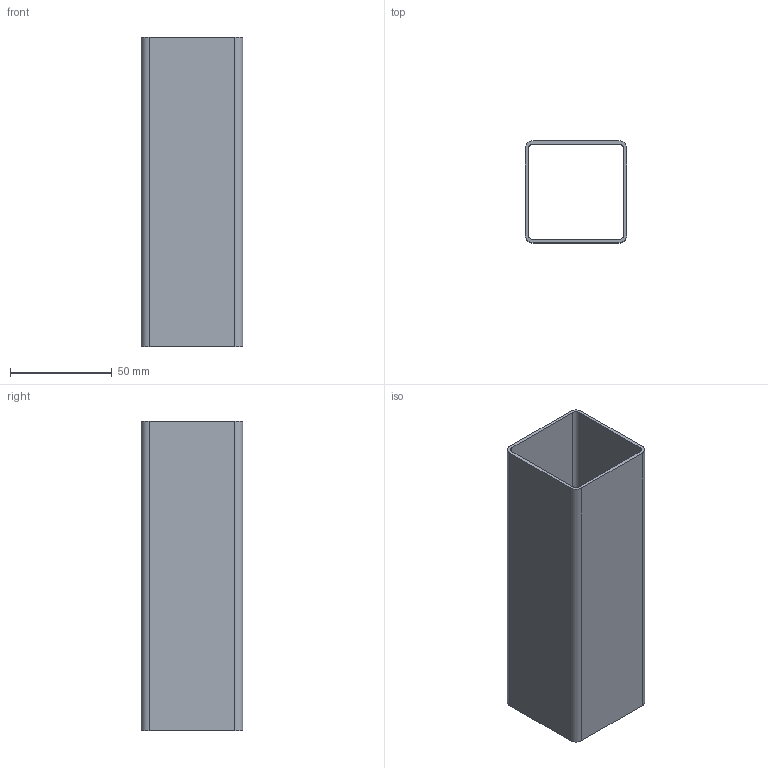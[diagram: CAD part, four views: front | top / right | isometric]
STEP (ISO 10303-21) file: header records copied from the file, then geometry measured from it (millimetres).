
FILE_DESCRIPTION (( 'STEP AP214' ), '1' );
FILE_NAME ('DRP-002-0000-02.STEP', '2010-06-24T16:31:39', ( '' ), ( '' ), 'SwSTEP 2.0', 'SolidWorks 2010', '' );
FILE_SCHEMA (( 'AUTOMOTIVE_DESIGN' ));
Length unit declared in the file: inch
Products named in the file (1): DRP-002-0000-02
Bounding box: 50.15 x 50.15 x 152.4 mm (x, y, z)
Volume: 45677.1 mm3; surface area: 58145.4 mm2
Topology: 1 solids, 1 shells, 18 faces, 48 edges, 32 vertices
Faces by surface type: plane 10, cylinder 8
Entity records: 612 total; most frequent: DIRECTION 102, CARTESIAN_POINT 99, ORIENTED_EDGE 96, EDGE_CURVE 48, AXIS2_PLACEMENT_3D 35, LINE 32, VERTEX_POINT 32, VECTOR 32
